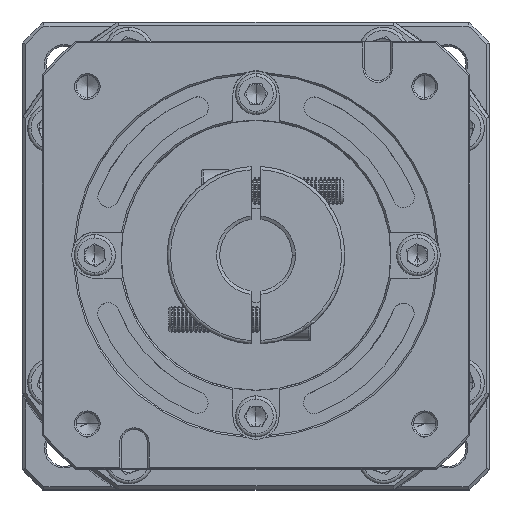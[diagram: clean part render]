
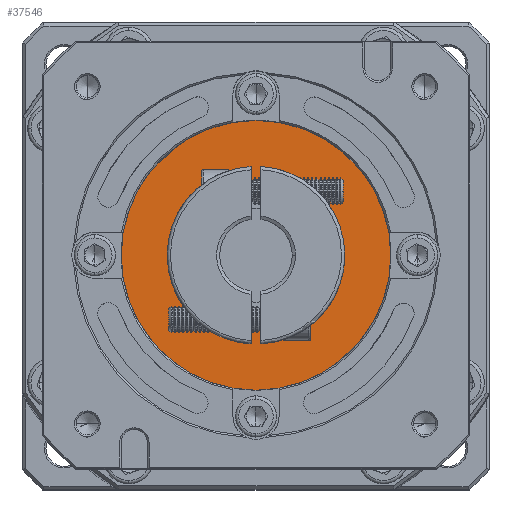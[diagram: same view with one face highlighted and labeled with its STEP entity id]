
A CAD part, top view. The second image highlights one B-rep face of the part: STEP entity #37546.
In plain terms, the highlighted planar face has unit normal (0, 0, 1).
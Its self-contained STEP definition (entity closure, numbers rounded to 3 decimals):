
#564 = DIRECTION ( 'NONE',  ( 0., 1., 0. ) ) ;
#3935 = ORIENTED_EDGE ( 'NONE', *, *, #113369, .T. ) ;
#4788 = CARTESIAN_POINT ( 'NONE',  ( -87.738, 87.014, -62.999 ) ) ;
#10702 = VERTEX_POINT ( 'NONE', #33796 ) ;
#10793 = DIRECTION ( 'NONE',  ( 0., 0., 1. ) ) ;
#11718 = EDGE_CURVE ( 'NONE', #136128, #55974, #121988, .T. ) ;
#21817 = DIRECTION ( 'NONE',  ( 0., 1., 0. ) ) ;
#23168 = CARTESIAN_POINT ( 'NONE',  ( -87.738, 87.014, -62.999 ) ) ;
#24484 = FACE_OUTER_BOUND ( 'NONE', #88240, .T. ) ;
#25107 = AXIS2_PLACEMENT_3D ( 'NONE', #66555, #43885, #564 ) ;
#27942 = FACE_BOUND ( 'NONE', #115307, .T. ) ;
#33382 = ORIENTED_EDGE ( 'NONE', *, *, #11718, .T. ) ;
#33796 = CARTESIAN_POINT ( 'NONE',  ( -87.738, 46.014, -62.999 ) ) ;
#34793 = AXIS2_PLACEMENT_3D ( 'NONE', #4788, #137213, #37979 ) ;
#37546 = ADVANCED_FACE ( 'NONE', ( #24484, #27942 ), #44968, .T. ) ;
#37979 = DIRECTION ( 'NONE',  ( 0., 1., 0. ) ) ;
#38798 = CARTESIAN_POINT ( 'NONE',  ( -87.738, 128.014, -62.999 ) ) ;
#43885 = DIRECTION ( 'NONE',  ( 0., 0., 1. ) ) ;
#44968 = PLANE ( 'NONE',  #57837 ) ;
#45870 = DIRECTION ( 'NONE',  ( 0., 0., -1. ) ) ;
#46021 = CIRCLE ( 'NONE', #34793, 41. ) ;
#46310 = CIRCLE ( 'NONE', #122453, 20. ) ;
#54179 = CARTESIAN_POINT ( 'NONE',  ( -87.738, 87.014, -62.999 ) ) ;
#55974 = VERTEX_POINT ( 'NONE', #56290 ) ;
#56120 = VERTEX_POINT ( 'NONE', #38798 ) ;
#56290 = CARTESIAN_POINT ( 'NONE',  ( -87.738, 67.014, -62.999 ) ) ;
#57837 = AXIS2_PLACEMENT_3D ( 'NONE', #54179, #10793, #21817 ) ;
#66555 = CARTESIAN_POINT ( 'NONE',  ( -87.738, 87.014, -62.999 ) ) ;
#68079 = EDGE_CURVE ( 'NONE', #55974, #136128, #46310, .T. ) ;
#71126 = CIRCLE ( 'NONE', #25107, 41. ) ;
#72207 = CARTESIAN_POINT ( 'NONE',  ( -87.738, 87.014, -62.999 ) ) ;
#77695 = CARTESIAN_POINT ( 'NONE',  ( -87.738, 107.014, -62.999 ) ) ;
#88240 = EDGE_LOOP ( 'NONE', ( #3935, #123839 ) ) ;
#95841 = DIRECTION ( 'NONE',  ( 0., 1., 0. ) ) ;
#95933 = AXIS2_PLACEMENT_3D ( 'NONE', #23168, #45870, #111425 ) ;
#111425 = DIRECTION ( 'NONE',  ( 0., 1., 0. ) ) ;
#113369 = EDGE_CURVE ( 'NONE', #56120, #10702, #46021, .T. ) ;
#115307 = EDGE_LOOP ( 'NONE', ( #33382, #122816 ) ) ;
#116821 = EDGE_CURVE ( 'NONE', #10702, #56120, #71126, .T. ) ;
#121988 = CIRCLE ( 'NONE', #95933, 20. ) ;
#122453 = AXIS2_PLACEMENT_3D ( 'NONE', #72207, #128128, #95841 ) ;
#122816 = ORIENTED_EDGE ( 'NONE', *, *, #68079, .T. ) ;
#123839 = ORIENTED_EDGE ( 'NONE', *, *, #116821, .T. ) ;
#128128 = DIRECTION ( 'NONE',  ( 0., 0., -1. ) ) ;
#136128 = VERTEX_POINT ( 'NONE', #77695 ) ;
#137213 = DIRECTION ( 'NONE',  ( 0., 0., 1. ) ) ;
